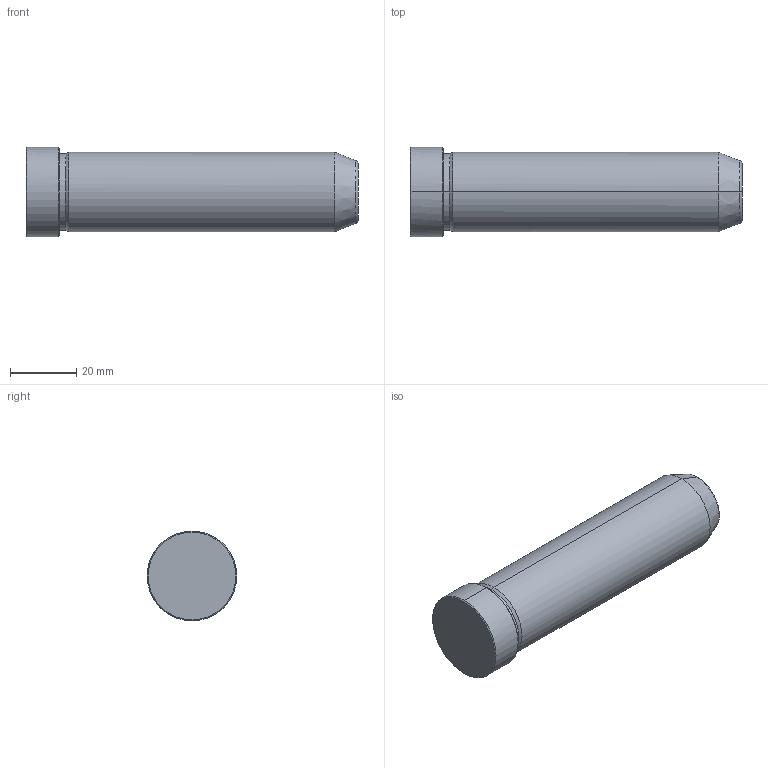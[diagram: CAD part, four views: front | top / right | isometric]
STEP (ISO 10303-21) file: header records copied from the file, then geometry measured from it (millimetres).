
FILE_DESCRIPTION(('CATIA V5 STEP Exchange'),'2;1');
FILE_NAME('C:\Users\Utente\Desktop\IO LAVORO\3D X SITO CF\X SITO\PLASTICA\549\549-24X100.stp','2021-12-17T14:06:06+00:00',('none'),('none'),'CATIA Version 5 Release 20 GA (IN-10)','CATIA V5 STEP AP203','none');
FILE_SCHEMA(('CONFIG_CONTROL_DESIGN'));
Length unit declared in the file: millimetre
Products named in the file (1): 549-24X100
Bounding box: 100 x 27 x 27 mm (x, y, z)
Volume: 45650.8 mm3; surface area: 8565 mm2
Topology: 1 solids, 1 shells, 19 faces, 56 edges, 40 vertices
Faces by surface type: cone 8, cylinder 6, plane 3, torus 2
Entity records: 736 total; most frequent: CARTESIAN_POINT 192, ORIENTED_EDGE 112, DIRECTION 86, EDGE_CURVE 56, AXIS2_PLACEMENT_3D 54, VERTEX_POINT 40, CIRCLE 34, EDGE_LOOP 20
